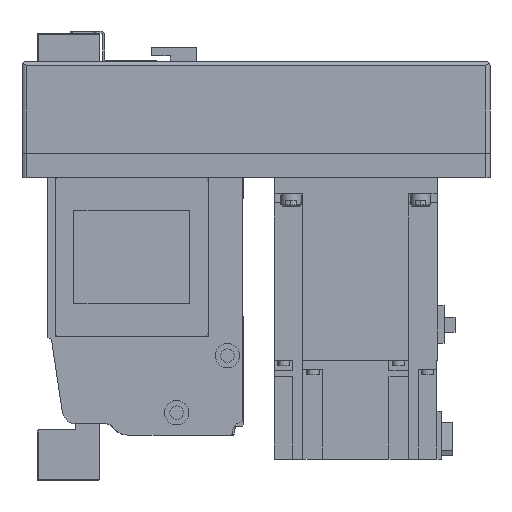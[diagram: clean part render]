
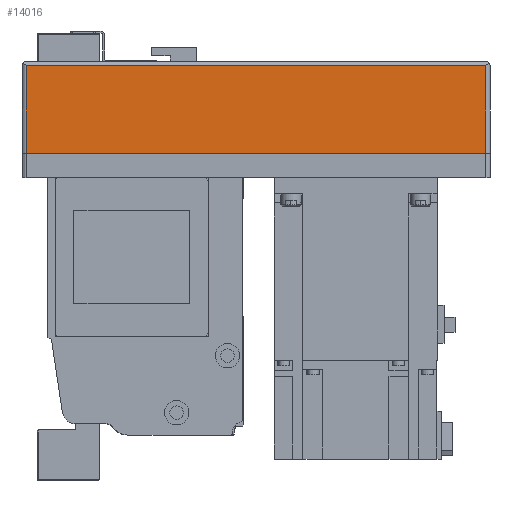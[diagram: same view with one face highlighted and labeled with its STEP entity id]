
A CAD part, left-side view. The second image highlights one B-rep face of the part: STEP entity #14016.
In plain terms, the highlighted planar face has unit normal (-1, 0, 0) as drawn and (0, -1, 0) by its records, which use the part's own axes.
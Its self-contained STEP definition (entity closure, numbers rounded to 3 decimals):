
#2411=ORIENTED_EDGE('',*,*,#5748,.F.);
#2412=ORIENTED_EDGE('',*,*,#5751,.T.);
#2413=ORIENTED_EDGE('',*,*,#5752,.T.);
#2414=ORIENTED_EDGE('',*,*,#5753,.F.);
#5748=EDGE_CURVE('',#7547,#7548,#9019,.T.);
#5751=EDGE_CURVE('',#7547,#7550,#9021,.T.);
#5752=EDGE_CURVE('',#7550,#7551,#9022,.T.);
#5753=EDGE_CURVE('',#7548,#7551,#9023,.T.);
#7547=VERTEX_POINT('',#21979);
#7548=VERTEX_POINT('',#21981);
#7550=VERTEX_POINT('',#21987);
#7551=VERTEX_POINT('',#21989);
#9019=LINE('',#21980,#10332);
#9021=LINE('',#21986,#10334);
#9022=LINE('',#21988,#10335);
#9023=LINE('',#21990,#10336);
#10332=VECTOR('',#17542,1000.);
#10334=VECTOR('',#17548,1000.);
#10335=VECTOR('',#17549,1000.);
#10336=VECTOR('',#17550,1000.);
#11456=EDGE_LOOP('',(#2411,#2412,#2413,#2414));
#12519=FACE_BOUND('',#11456,.T.);
#13432=PLANE('',#15042);
#14016=ADVANCED_FACE('',(#12519),#13432,.T.);
#15042=AXIS2_PLACEMENT_3D('',#21985,#17546,#17547);
#17542=DIRECTION('',(0.,0.,1.));
#17546=DIRECTION('',(0.,-1.,0.));
#17547=DIRECTION('',(0.,0.,-1.));
#17548=DIRECTION('',(1.,0.,0.));
#17549=DIRECTION('',(0.,0.,1.));
#17550=DIRECTION('',(1.,0.,0.));
#21979=CARTESIAN_POINT('',(-228.,-54.,-55.));
#21980=CARTESIAN_POINT('',(-228.,-54.,-57.));
#21981=CARTESIAN_POINT('',(-228.,-54.,-12.));
#21985=CARTESIAN_POINT('',(-228.,-54.,-57.));
#21986=CARTESIAN_POINT('',(-230.,-54.,-55.));
#21987=CARTESIAN_POINT('',(-2.,-54.,-55.));
#21988=CARTESIAN_POINT('',(-2.,-54.,-57.));
#21989=CARTESIAN_POINT('',(-2.,-54.,-12.));
#21990=CARTESIAN_POINT('',(-228.,-54.,-12.));
